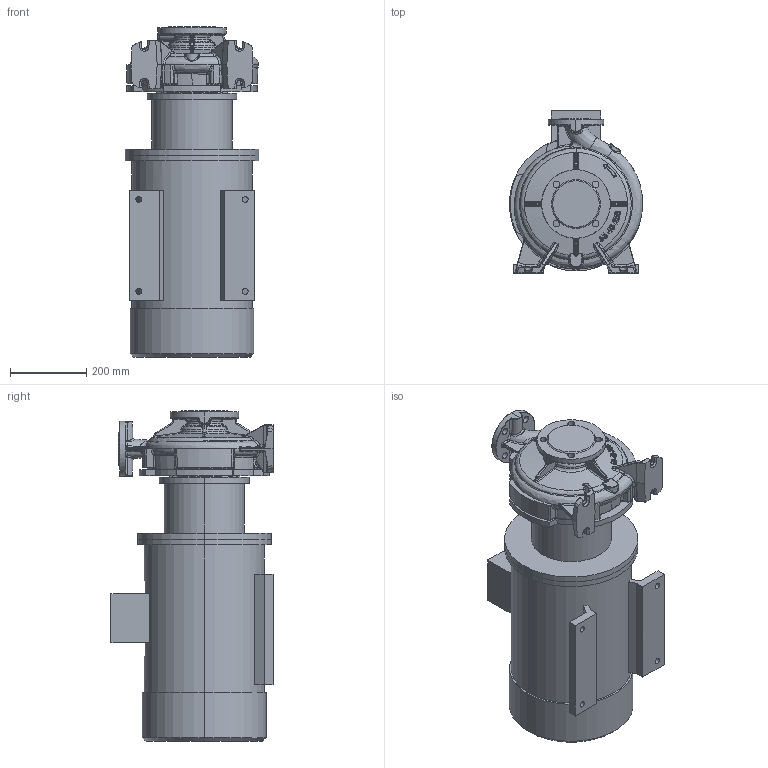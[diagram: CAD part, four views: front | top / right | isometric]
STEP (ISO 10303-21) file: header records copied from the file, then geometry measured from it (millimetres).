
FILE_DESCRIPTION (( 'STEP AP214' ), '1' );
FILE_NAME ('KRM 65-40-250-2-22.STEP', '2026-04-24T11:56:59', ( '' ), ( '' ), 'SwSTEP 2.0', 'SolidWorks 2016', '' );
FILE_SCHEMA (( 'AUTOMOTIVE_DESIGN' ));
Length unit declared in the file: millimetre
Products named in the file (1): KRM 65-40-250-2-22
Bounding box: 350 x 425 x 867.3 mm (x, y, z)
Volume: 62600399.7 mm3; surface area: 1947597.4 mm2
Topology: 4 solids, 4 shells, 1173 faces, 2853 edges, 1692 vertices
Faces by surface type: bspline 533, cylinder 218, plane 214, torus 96, cone 82, sphere 30
Entity records: 84928 total; most frequent: CARTESIAN_POINT 48889, ORIENTED_EDGE 5652, DIRECTION 3729, EDGE_CURVE 2826, VERTEX_POINT 1692, AXIS2_PLACEMENT_3D 1571, EDGE_LOOP 1228, UNCERTAINTY_MEASURE_WITH_UNIT 1179
